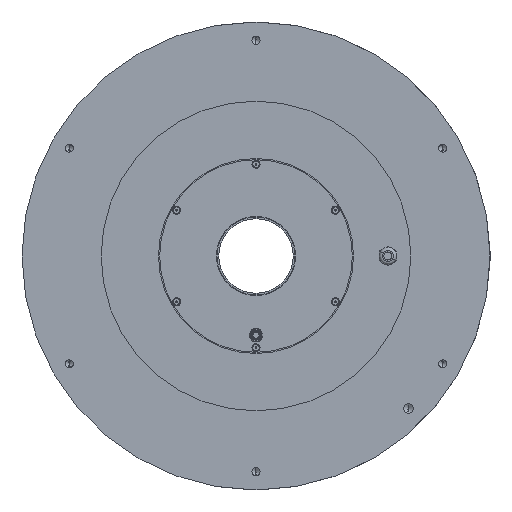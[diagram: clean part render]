
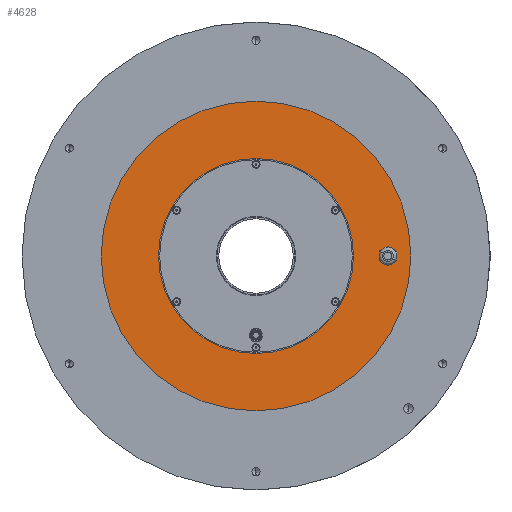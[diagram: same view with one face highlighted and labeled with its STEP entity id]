
A CAD part, front view. The second image highlights one B-rep face of the part: STEP entity #4628.
In plain terms, the highlighted planar face has unit normal (0, -1, 0).
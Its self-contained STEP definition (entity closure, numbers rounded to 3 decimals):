
#122 = CARTESIAN_POINT ( 'NONE',  ( 0., 0., 85. ) ) ;
#890 = CARTESIAN_POINT ( 'NONE',  ( 0., 0., 0. ) ) ;
#1003 = AXIS2_PLACEMENT_3D ( 'NONE', #24570, #7213, #27197 ) ;
#1381 = FACE_BOUND ( 'NONE', #36381, .T. ) ;
#1548 = ORIENTED_EDGE ( 'NONE', *, *, #8118, .T. ) ;
#1765 = FACE_OUTER_BOUND ( 'NONE', #19020, .T. ) ;
#2632 = DIRECTION ( 'NONE',  ( 0., 0., 1. ) ) ;
#2720 = CARTESIAN_POINT ( 'NONE',  ( 0., 0., 135. ) ) ;
#3169 = DIRECTION ( 'NONE',  ( 0., 1., 0. ) ) ;
#4062 = DIRECTION ( 'NONE',  ( 0., -1., 0. ) ) ;
#4628 = ADVANCED_FACE ( 'NONE', ( #7722, #1765, #1381 ), #30312, .T. ) ;
#6100 = DIRECTION ( 'NONE',  ( 0., -1., 0. ) ) ;
#6772 = AXIS2_PLACEMENT_3D ( 'NONE', #28738, #3169, #2632 ) ;
#6984 = DIRECTION ( 'NONE',  ( 0., 0., -1. ) ) ;
#7020 = EDGE_CURVE ( 'NONE', #9580, #22787, #13493, .T. ) ;
#7187 = EDGE_LOOP ( 'NONE', ( #35008, #13799 ) ) ;
#7213 = DIRECTION ( 'NONE',  ( 0., 1., 0. ) ) ;
#7722 = FACE_BOUND ( 'NONE', #7187, .T. ) ;
#8118 = EDGE_CURVE ( 'NONE', #34066, #23595, #8840, .T. ) ;
#8840 = CIRCLE ( 'NONE', #29672, 135. ) ;
#9580 = VERTEX_POINT ( 'NONE', #36111 ) ;
#11609 = AXIS2_PLACEMENT_3D ( 'NONE', #19064, #16280, #6984 ) ;
#13493 = CIRCLE ( 'NONE', #1003, 5.25 ) ;
#13799 = ORIENTED_EDGE ( 'NONE', *, *, #7020, .T. ) ;
#14201 = ORIENTED_EDGE ( 'NONE', *, *, #25564, .F. ) ;
#14811 = CIRCLE ( 'NONE', #35718, 85. ) ;
#15105 = AXIS2_PLACEMENT_3D ( 'NONE', #32428, #20286, #29436 ) ;
#16280 = DIRECTION ( 'NONE',  ( 0., -1., 0. ) ) ;
#17461 = DIRECTION ( 'NONE',  ( 0., 0., -1. ) ) ;
#17474 = CARTESIAN_POINT ( 'NONE',  ( 0., 0., -85. ) ) ;
#19020 = EDGE_LOOP ( 'NONE', ( #1548, #32820 ) ) ;
#19064 = CARTESIAN_POINT ( 'NONE',  ( 85., 0., 0. ) ) ;
#19905 = CARTESIAN_POINT ( 'NONE',  ( 0., 0., -135. ) ) ;
#20286 = DIRECTION ( 'NONE',  ( 0., -1., 0. ) ) ;
#20437 = EDGE_CURVE ( 'NONE', #25716, #25602, #14811, .T. ) ;
#20453 = CARTESIAN_POINT ( 'NONE',  ( 0., 0., 0. ) ) ;
#21476 = EDGE_CURVE ( 'NONE', #22787, #9580, #22861, .T. ) ;
#21886 = CARTESIAN_POINT ( 'NONE',  ( 115., 0., 5.25 ) ) ;
#21906 = EDGE_CURVE ( 'NONE', #23595, #34066, #28447, .T. ) ;
#22787 = VERTEX_POINT ( 'NONE', #21886 ) ;
#22861 = CIRCLE ( 'NONE', #6772, 5.25 ) ;
#23595 = VERTEX_POINT ( 'NONE', #2720 ) ;
#23641 = DIRECTION ( 'NONE',  ( 0., 0., -1. ) ) ;
#23806 = DIRECTION ( 'NONE',  ( 0., 0., -1. ) ) ;
#24570 = CARTESIAN_POINT ( 'NONE',  ( 115., 0., 0. ) ) ;
#25564 = EDGE_CURVE ( 'NONE', #25602, #25716, #27655, .T. ) ;
#25602 = VERTEX_POINT ( 'NONE', #17474 ) ;
#25716 = VERTEX_POINT ( 'NONE', #122 ) ;
#27197 = DIRECTION ( 'NONE',  ( 0., 0., 1. ) ) ;
#27655 = CIRCLE ( 'NONE', #15105, 85. ) ;
#28447 = CIRCLE ( 'NONE', #30231, 135. ) ;
#28738 = CARTESIAN_POINT ( 'NONE',  ( 115., 0., 0. ) ) ;
#29436 = DIRECTION ( 'NONE',  ( 0., 0., -1. ) ) ;
#29672 = AXIS2_PLACEMENT_3D ( 'NONE', #890, #4062, #23641 ) ;
#30231 = AXIS2_PLACEMENT_3D ( 'NONE', #32952, #35400, #23806 ) ;
#30312 = PLANE ( 'NONE',  #11609 ) ;
#30567 = ORIENTED_EDGE ( 'NONE', *, *, #20437, .F. ) ;
#32428 = CARTESIAN_POINT ( 'NONE',  ( 0., 0., 0. ) ) ;
#32820 = ORIENTED_EDGE ( 'NONE', *, *, #21906, .T. ) ;
#32952 = CARTESIAN_POINT ( 'NONE',  ( 0., 0., 0. ) ) ;
#34066 = VERTEX_POINT ( 'NONE', #19905 ) ;
#35008 = ORIENTED_EDGE ( 'NONE', *, *, #21476, .T. ) ;
#35400 = DIRECTION ( 'NONE',  ( 0., -1., 0. ) ) ;
#35718 = AXIS2_PLACEMENT_3D ( 'NONE', #20453, #6100, #17461 ) ;
#36111 = CARTESIAN_POINT ( 'NONE',  ( 115., 0., -5.25 ) ) ;
#36381 = EDGE_LOOP ( 'NONE', ( #14201, #30567 ) ) ;
